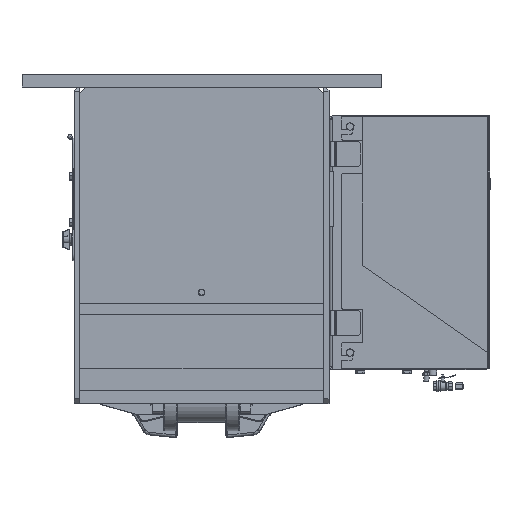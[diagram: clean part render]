
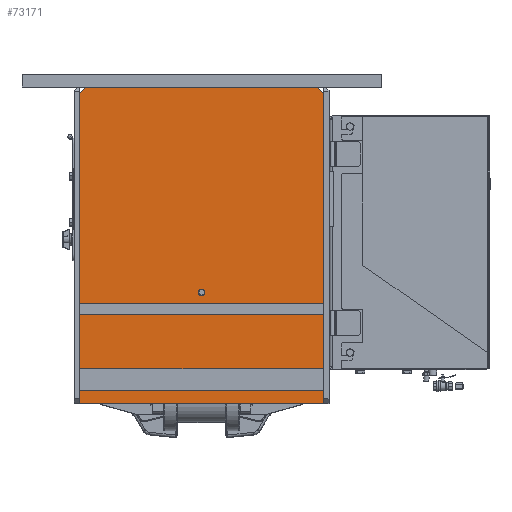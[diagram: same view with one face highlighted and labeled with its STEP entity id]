
A CAD part, top view. The second image highlights one B-rep face of the part: STEP entity #73171.
In plain terms, the highlighted planar face has unit normal (0, 0, 1).
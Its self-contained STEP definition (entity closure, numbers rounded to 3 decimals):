
#3484=FACE_BOUND('',#11529,.T.);
#3485=FACE_BOUND('',#11530,.T.);
#3486=FACE_BOUND('',#11531,.T.);
#7167=FACE_OUTER_BOUND('',#11528,.T.);
#11528=EDGE_LOOP('',(#57436,#57437,#57438,#57439,#57440,#57441));
#11529=EDGE_LOOP('',(#57442));
#11530=EDGE_LOOP('',(#57443,#57444,#57445,#57446));
#11531=EDGE_LOOP('',(#57447,#57448,#57449,#57450));
#15591=LINE('',#119871,#21378);
#15601=LINE('',#119891,#21388);
#15603=LINE('',#119897,#21390);
#15613=LINE('',#119917,#21400);
#16674=LINE('',#125704,#22461);
#16676=LINE('',#125707,#22463);
#16686=LINE('',#125726,#22473);
#16688=LINE('',#125729,#22475);
#16702=LINE('',#125759,#22489);
#16740=LINE('',#125835,#22527);
#16744=LINE('',#125842,#22531);
#16745=LINE('',#125844,#22532);
#16746=LINE('',#125846,#22533);
#16747=LINE('',#125847,#22534);
#21378=VECTOR('',#88832,547.);
#21388=VECTOR('',#88844,547.);
#21390=VECTOR('',#88848,547.);
#21400=VECTOR('',#88860,547.);
#22461=VECTOR('',#92863,50.8);
#22463=VECTOR('',#92867,50.8);
#22473=VECTOR('',#92895,25.4);
#22475=VECTOR('',#92899,25.4);
#22489=VECTOR('',#92921,548.);
#22527=VECTOR('',#92979,733.);
#22531=VECTOR('',#92985,21.213);
#22532=VECTOR('',#92986,578.);
#22533=VECTOR('',#92987,733.);
#22534=VECTOR('',#92988,21.213);
#25721=CIRCLE('',#77617,8.);
#30049=VERTEX_POINT('',#119867);
#30051=VERTEX_POINT('',#119870);
#30056=VERTEX_POINT('',#119881);
#30060=VERTEX_POINT('',#119889);
#30061=VERTEX_POINT('',#119893);
#30063=VERTEX_POINT('',#119896);
#30068=VERTEX_POINT('',#119907);
#30072=VERTEX_POINT('',#119915);
#30381=VERTEX_POINT('',#120930);
#31313=VERTEX_POINT('',#125756);
#31314=VERTEX_POINT('',#125758);
#31341=VERTEX_POINT('',#125832);
#31342=VERTEX_POINT('',#125834);
#31345=VERTEX_POINT('',#125843);
#31346=VERTEX_POINT('',#125845);
#38374=EDGE_CURVE('',#30051,#30049,#15591,.T.);
#38384=EDGE_CURVE('',#30056,#30060,#15601,.T.);
#38386=EDGE_CURVE('',#30063,#30061,#15603,.T.);
#38396=EDGE_CURVE('',#30068,#30072,#15613,.T.);
#38835=EDGE_CURVE('',#30381,#30381,#25721,.T.);
#40374=EDGE_CURVE('',#30049,#30056,#16674,.T.);
#40376=EDGE_CURVE('',#30060,#30051,#16676,.T.);
#40386=EDGE_CURVE('',#30061,#30068,#16686,.T.);
#40388=EDGE_CURVE('',#30072,#30063,#16688,.T.);
#40402=EDGE_CURVE('',#31313,#31314,#16702,.T.);
#40440=EDGE_CURVE('',#31341,#31342,#16740,.T.);
#40444=EDGE_CURVE('',#31342,#31313,#16744,.T.);
#40445=EDGE_CURVE('',#31345,#31341,#16745,.T.);
#40446=EDGE_CURVE('',#31346,#31345,#16746,.T.);
#40447=EDGE_CURVE('',#31314,#31346,#16747,.T.);
#57436=ORIENTED_EDGE('',*,*,#40444,.F.);
#57437=ORIENTED_EDGE('',*,*,#40440,.F.);
#57438=ORIENTED_EDGE('',*,*,#40445,.F.);
#57439=ORIENTED_EDGE('',*,*,#40446,.F.);
#57440=ORIENTED_EDGE('',*,*,#40447,.F.);
#57441=ORIENTED_EDGE('',*,*,#40402,.F.);
#57442=ORIENTED_EDGE('',*,*,#38835,.T.);
#57443=ORIENTED_EDGE('',*,*,#40374,.T.);
#57444=ORIENTED_EDGE('',*,*,#38384,.T.);
#57445=ORIENTED_EDGE('',*,*,#40376,.T.);
#57446=ORIENTED_EDGE('',*,*,#38374,.T.);
#57447=ORIENTED_EDGE('',*,*,#40386,.T.);
#57448=ORIENTED_EDGE('',*,*,#38396,.T.);
#57449=ORIENTED_EDGE('',*,*,#40388,.T.);
#57450=ORIENTED_EDGE('',*,*,#38386,.T.);
#65873=PLANE('',#78810);
#73171=ADVANCED_FACE('',(#7167,#3484,#3485,#3486),#65873,.T.);
#77617=AXIS2_PLACEMENT_3D('',#120931,#89724,#89725);
#78810=AXIS2_PLACEMENT_3D('',#125841,#92983,#92984);
#88832=DIRECTION('',(-1.,0.,0.));
#88844=DIRECTION('',(1.,0.,0.));
#88848=DIRECTION('',(-1.,0.,0.));
#88860=DIRECTION('',(1.,0.,0.));
#89724=DIRECTION('center_axis',(0.,0.,
-1.));
#89725=DIRECTION('ref_axis',(1.,0.,0.));
#92863=DIRECTION('',(0.,1.,0.));
#92867=DIRECTION('',(0.,-1.,0.));
#92895=DIRECTION('',(0.,1.,0.));
#92899=DIRECTION('',(0.,-1.,0.));
#92921=DIRECTION('',(1.,0.,0.));
#92979=DIRECTION('',(0.,1.,0.));
#92983=DIRECTION('center_axis',(0.,0.,
1.));
#92984=DIRECTION('ref_axis',(1.,0.,0.));
#92985=DIRECTION('',(0.707,0.707,0.));
#92986=DIRECTION('',(-1.,0.,0.));
#92987=DIRECTION('',(0.,-1.,0.));
#92988=DIRECTION('',(0.707,-0.707,0.));
#119867=CARTESIAN_POINT('',(-273.5,30.,841.275));
#119870=CARTESIAN_POINT('',(273.5,30.,841.275));
#119871=CARTESIAN_POINT('',(0.,30.,841.275));
#119881=CARTESIAN_POINT('',(-273.5,80.8,841.275));
#119889=CARTESIAN_POINT('',(273.5,80.8,841.275));
#119891=CARTESIAN_POINT('',(0.,80.8,841.275));
#119893=CARTESIAN_POINT('',(-273.5,210.,841.275));
#119896=CARTESIAN_POINT('',(273.5,210.,841.275));
#119897=CARTESIAN_POINT('',(0.,210.,841.275));
#119907=CARTESIAN_POINT('',(-273.5,235.4,841.275));
#119915=CARTESIAN_POINT('',(273.5,235.4,841.275));
#119917=CARTESIAN_POINT('',(0.,235.4,841.275));
#120930=CARTESIAN_POINT('',(-8.,262.,841.275));
#120931=CARTESIAN_POINT('Origin',(0.,262.,
841.275));
#125704=CARTESIAN_POINT('',(-273.5,214.7,841.275));
#125707=CARTESIAN_POINT('',(273.5,214.7,841.275));
#125726=CARTESIAN_POINT('',(-273.5,298.35,841.275));
#125729=CARTESIAN_POINT('',(273.5,298.35,841.275));
#125756=CARTESIAN_POINT('',(-274.,748.,841.275));
#125758=CARTESIAN_POINT('',(274.,748.,841.275));
#125759=CARTESIAN_POINT('',(-289.,748.,841.275));
#125832=CARTESIAN_POINT('',(-289.,0.,841.275));
#125834=CARTESIAN_POINT('',(-289.,733.,841.275));
#125835=CARTESIAN_POINT('',(-289.,374.,841.275));
#125841=CARTESIAN_POINT('Origin',(0.,374.,
841.275));
#125842=CARTESIAN_POINT('',(-302.75,719.25,841.275));
#125843=CARTESIAN_POINT('',(289.,0.,841.275));
#125844=CARTESIAN_POINT('',(289.,0.,841.275));
#125845=CARTESIAN_POINT('',(289.,733.,841.275));
#125846=CARTESIAN_POINT('',(289.,374.,841.275));
#125847=CARTESIAN_POINT('',(302.75,719.25,841.275));
